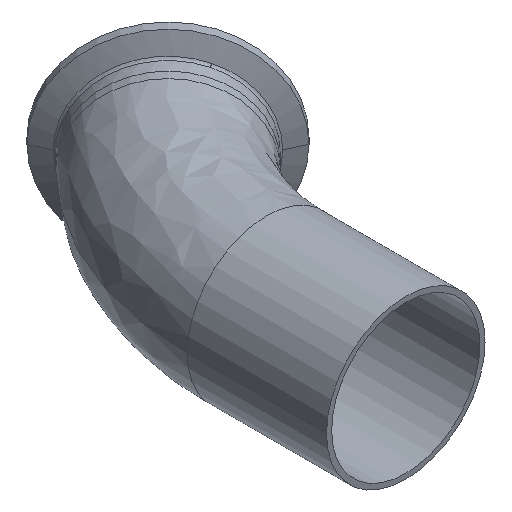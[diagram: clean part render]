
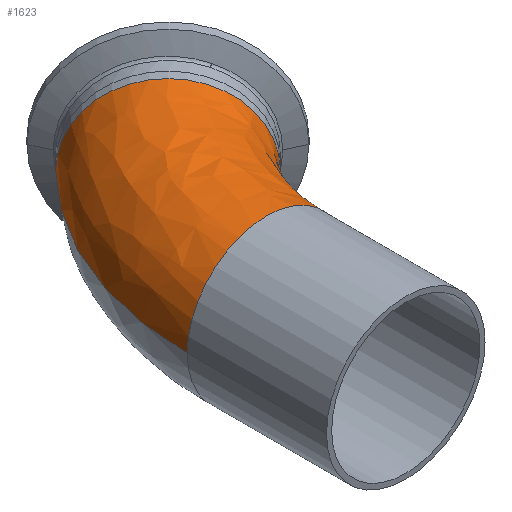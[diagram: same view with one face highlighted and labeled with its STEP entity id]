
A CAD part, isometric view. The second image highlights one B-rep face of the part: STEP entity #1623.
In plain terms, the highlighted free-form (B-spline) face has degree [3, 3] with [4, 4] control points.
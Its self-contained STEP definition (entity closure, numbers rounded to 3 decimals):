
#73 = FACE_OUTER_BOUND ( 'NONE', #141, .T. ) ;
#125 = CARTESIAN_POINT ( 'NONE',  ( -14.95, 97.171, 50.8 ) ) ;
#141 = EDGE_LOOP ( 'NONE', ( #483, #1551, #644, #239 ) ) ;
#178 = VERTEX_POINT ( 'NONE', #625 ) ;
#187 = CARTESIAN_POINT ( 'NONE',  ( 76.2, 44.637, 0. ) ) ;
#210 = DIRECTION ( 'NONE',  ( 0., 0., -1. ) ) ;
#239 = ORIENTED_EDGE ( 'NONE', *, *, #500, .F. ) ;
#240 = AXIS2_PLACEMENT_3D ( 'NONE', #503, #510, #518 ) ;
#282 = CARTESIAN_POINT ( 'NONE',  ( -25.4, 71.943, 0. ) ) ;
#359 = DIRECTION ( 'NONE',  ( -1., 0., 0. ) ) ;
#430 = CARTESIAN_POINT ( 'NONE',  ( -25.4, 44.637, 50.8 ) ) ;
#440 = CARTESIAN_POINT ( 'NONE',  ( 4.358, 116.479, 0. ) ) ;
#455 = CIRCLE ( 'NONE', #988, 25.4 ) ;
#475 = CARTESIAN_POINT ( 'NONE',  ( 4.358, 116.479, 0. ) ) ;
#480 = CIRCLE ( 'NONE', #240, 25.4 ) ;
#483 = ORIENTED_EDGE ( 'NONE', *, *, #1797, .T. ) ;
#500 = EDGE_CURVE ( 'NONE', #178, #1190, #1364, .T. ) ;
#503 = CARTESIAN_POINT ( 'NONE',  ( 22.318, 98.518, 0. ) ) ;
#510 = DIRECTION ( 'NONE',  ( -0.707, -0.707, 0. ) ) ;
#518 = DIRECTION ( 'NONE',  ( -0.707, 0.707, 0. ) ) ;
#553 = CARTESIAN_POINT ( 'NONE',  ( -14.95, 97.171, 0. ) ) ;
#625 = CARTESIAN_POINT ( 'NONE',  ( -25.4, 44.637, 0. ) ) ;
#630 = CARTESIAN_POINT ( 'NONE',  ( 0., 44.637, 0. ) ) ;
#638 = DIRECTION ( 'NONE',  ( 0., 1., 0. ) ) ;
#644 = ORIENTED_EDGE ( 'NONE', *, *, #713, .T. ) ;
#685 = CARTESIAN_POINT ( 'NONE',  ( 25.4, 44.637, 0. ) ) ;
#713 = EDGE_CURVE ( 'NONE', #784, #1190, #480, .T. ) ;
#740 = CARTESIAN_POINT ( 'NONE',  ( -25.4, 71.943, 50.8 ) ) ;
#779 =( BOUNDED_SURFACE ( )  B_SPLINE_SURFACE ( 3, 3, ( 
 ( #1010, #282, #553, #440 ),
 ( #430, #740, #125, #1689 ),
 ( #1822, #1815, #1801, #1787 ),
 ( #1781, #1682, #1676, #1668 ) ),
 .UNSPECIFIED., .F., .F., .F. ) 
 B_SPLINE_SURFACE_WITH_KNOTS ( ( 4, 4 ),
 ( 4, 4 ),
 ( 0., 1. ),
 ( 0., 1. ),
 .UNSPECIFIED. ) 
 GEOMETRIC_REPRESENTATION_ITEM ( )  RATIONAL_B_SPLINE_SURFACE ( (
 ( 1., 0.949, 0.949, 1.),
 ( 0.333, 0.316, 0.316, 0.333),
 ( 0.333, 0.316, 0.316, 0.333),
 ( 1., 0.949, 0.949, 1.) ) ) 
 REPRESENTATION_ITEM ( '' )  SURFACE ( )  );
#784 = VERTEX_POINT ( 'NONE', #941 ) ;
#790 = DIRECTION ( 'NONE',  ( -1., 0., 0. ) ) ;
#846 = CIRCLE ( 'NONE', #1660, 50.8 ) ;
#872 = EDGE_CURVE ( 'NONE', #979, #784, #846, .T. ) ;
#941 = CARTESIAN_POINT ( 'NONE',  ( 40.279, 80.558, 0. ) ) ;
#979 = VERTEX_POINT ( 'NONE', #685 ) ;
#988 = AXIS2_PLACEMENT_3D ( 'NONE', #630, #638, #790 ) ;
#1010 = CARTESIAN_POINT ( 'NONE',  ( -25.4, 44.637, 0. ) ) ;
#1190 = VERTEX_POINT ( 'NONE', #475 ) ;
#1364 = CIRCLE ( 'NONE', #1419, 101.6 ) ;
#1419 = AXIS2_PLACEMENT_3D ( 'NONE', #187, #210, #359 ) ;
#1476 = DIRECTION ( 'NONE',  ( 0., 0., -1. ) ) ;
#1483 = DIRECTION ( 'NONE',  ( -1., 0., 0. ) ) ;
#1551 = ORIENTED_EDGE ( 'NONE', *, *, #872, .T. ) ;
#1623 = ADVANCED_FACE ( 'NONE', ( #73 ), #779, .T. ) ;
#1625 = CARTESIAN_POINT ( 'NONE',  ( 76.2, 44.637, 0. ) ) ;
#1660 = AXIS2_PLACEMENT_3D ( 'NONE', #1625, #1476, #1483 ) ;
#1668 = CARTESIAN_POINT ( 'NONE',  ( 40.279, 80.558, 0. ) ) ;
#1676 = CARTESIAN_POINT ( 'NONE',  ( 30.625, 70.904, 0. ) ) ;
#1682 = CARTESIAN_POINT ( 'NONE',  ( 25.4, 58.29, 0. ) ) ;
#1689 = CARTESIAN_POINT ( 'NONE',  ( 4.358, 116.479, 50.8 ) ) ;
#1781 = CARTESIAN_POINT ( 'NONE',  ( 25.4, 44.637, 0. ) ) ;
#1787 = CARTESIAN_POINT ( 'NONE',  ( 40.279, 80.558, 50.8 ) ) ;
#1797 = EDGE_CURVE ( 'NONE', #178, #979, #455, .T. ) ;
#1801 = CARTESIAN_POINT ( 'NONE',  ( 30.625, 70.904, 50.8 ) ) ;
#1815 = CARTESIAN_POINT ( 'NONE',  ( 25.4, 58.29, 50.8 ) ) ;
#1822 = CARTESIAN_POINT ( 'NONE',  ( 25.4, 44.637, 50.8 ) ) ;
